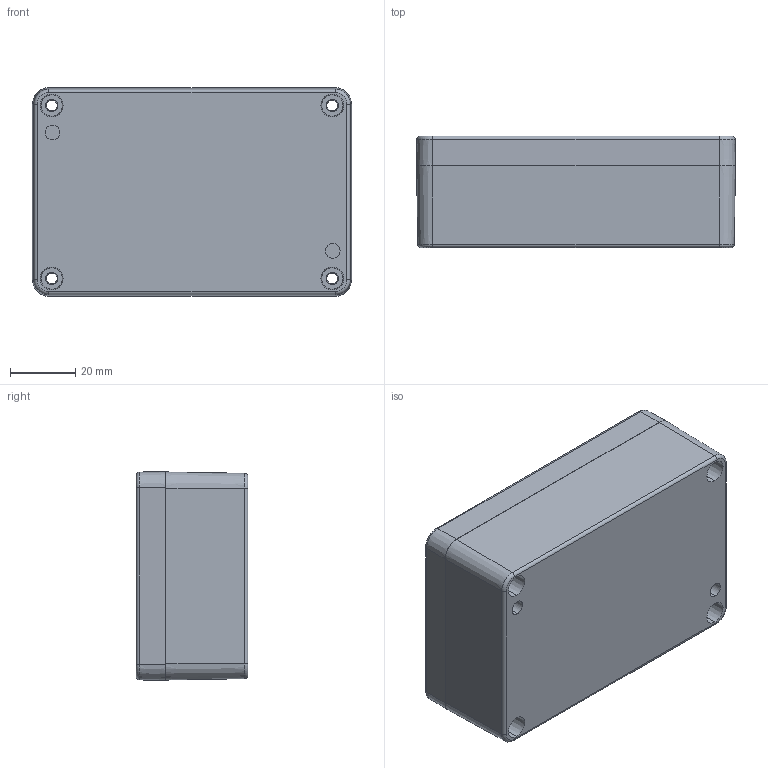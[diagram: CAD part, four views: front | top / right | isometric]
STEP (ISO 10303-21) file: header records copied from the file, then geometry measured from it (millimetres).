
FILE_DESCRIPTION (( 'STEP AP203' ), '1' );
FILE_NAME ('SE-307-0-0.STEP', '2020-06-16T11:18:52', ( '' ), ( '' ), 'SwSTEP 2.0', 'SolidWorks 2020', '' );
FILE_SCHEMA (( 'CONFIG_CONTROL_DESIGN' ));
Length unit declared in the file: millimetre
Products named in the file (3): SE-307-0-0; SE-307-P-1; SE-307-P-2
Assembly tree (2 placements, depth 2):
  SE-307-0-0
    SE-307-P-2
    SE-307-P-1
Bounding box: 97.8 x 34.2 x 64 mm (x, y, z)
Volume: 71017.2 mm3; surface area: 48924.3 mm2
Topology: 2 solids, 2 shells, 268 faces, 687 edges, 448 vertices
Faces by surface type: cone 133, plane 99, cylinder 28, torus 8
Entity records: 8596 total; most frequent: DIRECTION 1565, CARTESIAN_POINT 1419, ORIENTED_EDGE 1374, EDGE_CURVE 687, AXIS2_PLACEMENT_3D 608, VERTEX_POINT 448, VECTOR 349, LINE 349
